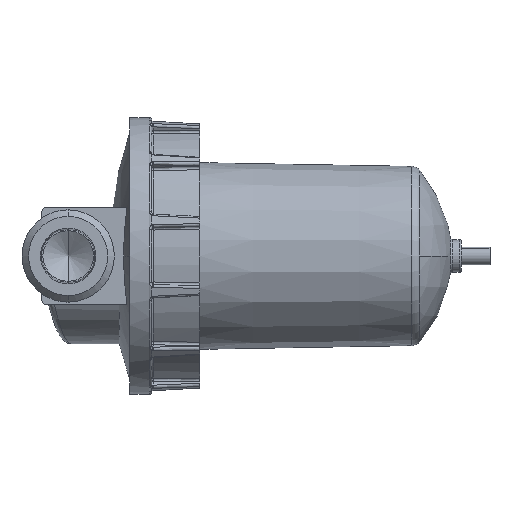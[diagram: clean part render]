
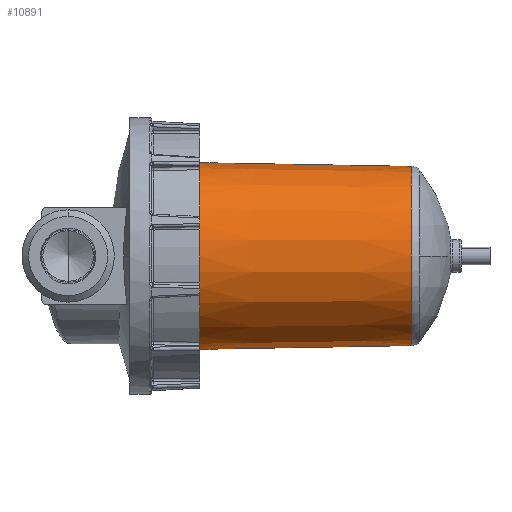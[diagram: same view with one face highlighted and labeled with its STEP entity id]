
A CAD part, left-side view. The second image highlights one B-rep face of the part: STEP entity #10891.
In plain terms, the highlighted conical face has half-angle 1 degrees and reference radius 40.75 mm.
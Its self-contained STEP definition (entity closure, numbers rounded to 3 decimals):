
#909 = VERTEX_POINT ( 'NONE', #1392 ) ;
#1392 = CARTESIAN_POINT ( 'NONE',  ( 0., 2.184, -40.788 ) ) ;
#1458 = DIRECTION ( 'NONE',  ( 0., 0., 1. ) ) ;
#2136 = CARTESIAN_POINT ( 'NONE',  ( 0., 2.184, 0. ) ) ;
#2258 = VERTEX_POINT ( 'NONE', #13111 ) ;
#2348 = FACE_OUTER_BOUND ( 'NONE', #3085, .T. ) ;
#2473 = DIRECTION ( 'NONE',  ( 0., 0., 1. ) ) ;
#3085 = EDGE_LOOP ( 'NONE', ( #8131, #6662, #7372, #7275 ) ) ;
#3217 = DIRECTION ( 'NONE',  ( 0., 0., -1. ) ) ;
#3690 = AXIS2_PLACEMENT_3D ( 'NONE', #7716, #11928, #2473 ) ;
#5034 = CIRCLE ( 'NONE', #6085, 40.788 ) ;
#5490 = EDGE_CURVE ( 'NONE', #12254, #2258, #6931, .T. ) ;
#5876 = DIRECTION ( 'NONE',  ( 0., 1., 0. ) ) ;
#5900 = VECTOR ( 'NONE', #13525, 1000. ) ;
#6085 = AXIS2_PLACEMENT_3D ( 'NONE', #2136, #11737, #3217 ) ;
#6249 = LINE ( 'NONE', #12596, #5900 ) ;
#6662 = ORIENTED_EDGE ( 'NONE', *, *, #13180, .T. ) ;
#6889 = CARTESIAN_POINT ( 'NONE',  ( 0., 2.184, 40.788 ) ) ;
#6931 = LINE ( 'NONE', #11288, #12730 ) ;
#7275 = ORIENTED_EDGE ( 'NONE', *, *, #10503, .F. ) ;
#7372 = ORIENTED_EDGE ( 'NONE', *, *, #5490, .T. ) ;
#7716 = CARTESIAN_POINT ( 'NONE',  ( 0., 0., 0. ) ) ;
#8131 = ORIENTED_EDGE ( 'NONE', *, *, #9205, .F. ) ;
#9205 = EDGE_CURVE ( 'NONE', #909, #9779, #6249, .T. ) ;
#9779 = VERTEX_POINT ( 'NONE', #11608 ) ;
#10308 = DIRECTION ( 'NONE',  ( 0., 1., 0.017 ) ) ;
#10503 = EDGE_CURVE ( 'NONE', #9779, #2258, #11340, .T. ) ;
#10891 = ADVANCED_FACE ( 'NONE', ( #2348 ), #13164, .T. ) ;
#11288 = CARTESIAN_POINT ( 'NONE',  ( 0., 0., 40.75 ) ) ;
#11340 = CIRCLE ( 'NONE', #12838, 42.469 ) ;
#11608 = CARTESIAN_POINT ( 'NONE',  ( 0., 98.5, -42.469 ) ) ;
#11737 = DIRECTION ( 'NONE',  ( 0., 1., 0. ) ) ;
#11928 = DIRECTION ( 'NONE',  ( 0., 1., 0. ) ) ;
#12218 = CARTESIAN_POINT ( 'NONE',  ( 0., 98.5, 0. ) ) ;
#12254 = VERTEX_POINT ( 'NONE', #6889 ) ;
#12596 = CARTESIAN_POINT ( 'NONE',  ( 0., 0., -40.75 ) ) ;
#12730 = VECTOR ( 'NONE', #10308, 1000. ) ;
#12838 = AXIS2_PLACEMENT_3D ( 'NONE', #12218, #5876, #1458 ) ;
#13111 = CARTESIAN_POINT ( 'NONE',  ( 0., 98.5, 42.469 ) ) ;
#13164 = CONICAL_SURFACE ( 'NONE', #3690, 40.75, 0.017 ) ;
#13180 = EDGE_CURVE ( 'NONE', #909, #12254, #5034, .T. ) ;
#13525 = DIRECTION ( 'NONE',  ( 0., 1., -0.017 ) ) ;
